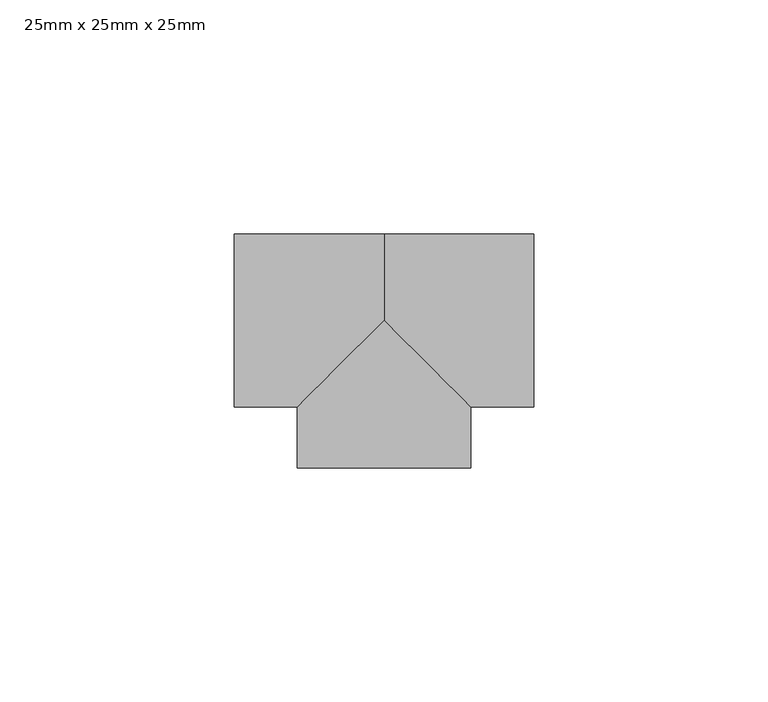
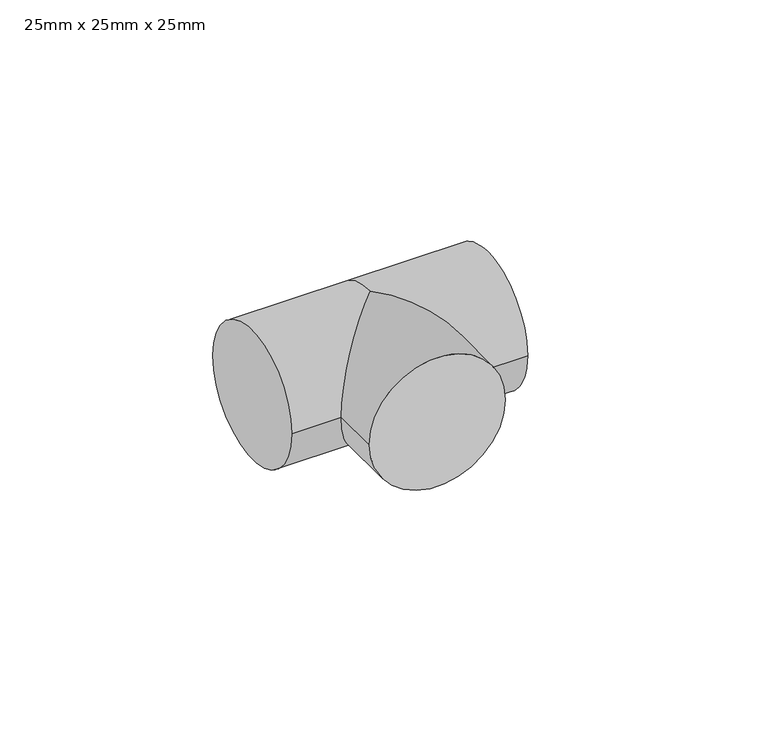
"""IFC4 building model written with IfcOpenShell, lengths in millimetres: pipe fitting geometry, PipeFitting_HTA_CPVC_Tees90° : 25mm x 25mm x 25mm."""

import ifcopenshell
import ifcopenshell.guid

model = None  # the IFC model being written
_history = None  # IfcOwnerHistory: only IFC2X3 demands one
_inside = {}  # id of a spatial element -> (the spatial element, [elements in it])
_under = {}  # id of a project, library or spatial element -> (it, [spatial elements below it])
_declared = {}  # id of a project -> (the project, [libraries it declares])
_typed = {}  # id of a type object -> (the type object, [elements of that type])
_made_of = {}  # id of a material, layer set ... -> (it, [elements and type objects made of it])


def new_model(schema):
    """Start an empty IFC model of exactly this schema.

    Asked for "IFC4X3", IfcOpenShell would pick the latest addendum, in which some entities
    have other attributes; the version numbers below select the first issue.
    IFC2X3 requires an IfcOwnerHistory on every rooted entity: one is made here for all.
    """
    global model, _history
    if schema == "IFC4X3":
        model = ifcopenshell.file(schema_version=(4, 3, 0, 0))
    else:
        model = ifcopenshell.file(schema=schema)
    _inside.clear()
    _under.clear()
    _declared.clear()
    _typed.clear()
    _made_of.clear()
    _history = None
    if model.schema == "IFC2X3":
        org = make("IfcOrganization", Name="unknown")
        user = make(
            "IfcPersonAndOrganization",
            ThePerson=make("IfcPerson", FamilyName="unknown"),
            TheOrganization=org,
        )
        app = make(
            "IfcApplication",
            ApplicationDeveloper=org,
            Version="unknown",
            ApplicationFullName="unknown",
            ApplicationIdentifier="unknown",
        )
        _history = make(
            "IfcOwnerHistory",
            OwningUser=user,
            OwningApplication=app,
            ChangeAction="ADDED",
            CreationDate=0,
        )
    return model


def make(cls, **values):
    """One entity of the class cls with the attributes given. An attribute that is None is left unset."""
    return model.create_entity(
        cls, **{name: value for name, value in values.items() if value is not None}
    )


def rooted(cls, **values):
    """An entity with a GlobalId (a new one), such as an element, a storey or a relation."""
    return make(cls, GlobalId=ifcopenshell.guid.new(), OwnerHistory=_history, **values)


def si_unit(unit_type, name, prefix=None):
    """IfcSIUnit, for example si_unit("LENGTHUNIT", "METRE", prefix="MILLI")."""
    return make("IfcSIUnit", UnitType=unit_type, Prefix=prefix, Name=name)


def assignment(units):
    """IfcUnitAssignment: the units of a project."""
    return None if units is None else make("IfcUnitAssignment", Units=units)


def point(xyz):
    """IfcCartesianPoint."""
    return None if xyz is None else make("IfcCartesianPoint", Coordinates=xyz)


def direction(xyz):
    """IfcDirection."""
    return None if xyz is None else make("IfcDirection", DirectionRatios=xyz)


def frame(location, z_axis=None, x_axis=None):
    """IfcAxis2Placement3D, a coordinate frame: its origin and axes. An axis left out is left unset."""
    return make(
        "IfcAxis2Placement3D",
        Location=point(location),
        Axis=direction(z_axis),
        RefDirection=direction(x_axis),
    )


def origin():
    """The frame at (0, 0, 0) with its axes left unset."""
    return frame((0.0, 0.0, 0.0))


def place(relative_to, where):
    """IfcLocalPlacement: puts the frame where relative to a parent placement (None: the world)."""
    return make(
        "IfcLocalPlacement", PlacementRelTo=relative_to, RelativePlacement=where
    )


def context(
    kind, dimensions, precision=None, world=None, true_north=None, identifier=None
):
    """IfcGeometricRepresentationContext, for example the 3D "Model" context."""
    return make(
        "IfcGeometricRepresentationContext",
        ContextIdentifier=identifier,
        ContextType=kind,
        CoordinateSpaceDimension=dimensions,
        Precision=precision,
        WorldCoordinateSystem=world,
        TrueNorth=true_north,
    )


def project(units=None, contexts=None):
    """IfcProject with its units and contexts."""
    return rooted(
        "IfcProject",
        Name="project",
        RepresentationContexts=contexts,
        UnitsInContext=assignment(units),
    )


def spatial(cls, under=None, at=None, **own):
    """A site, building, storey or space (cls), placed at a placement, below another one or the project."""
    s = rooted(cls, ObjectPlacement=at, **own)
    if under is not None:
        _under.setdefault(under.id(), (under, []))[1].append(s)
    return s


def circle_curve(where, radius):
    """IfcCircle in the frame where."""
    return make("IfcCircle", Position=where, Radius=radius)


def ellipse_curve(where, semi_axis1, semi_axis2):
    """IfcEllipse in the frame where."""
    return make(
        "IfcEllipse", Position=where, SemiAxis1=semi_axis1, SemiAxis2=semi_axis2
    )


def shape(context_of_items, identifier, shape_type, items):
    """IfcShapeRepresentation: the items that make up one representation, for example the "Body"."""
    return make(
        "IfcShapeRepresentation",
        ContextOfItems=context_of_items,
        RepresentationIdentifier=identifier,
        RepresentationType=shape_type,
        Items=items,
    )


def source(mapping_origin, context_of_items, identifier, shape_type, items):
    """IfcRepresentationMap: a shape defined once, which mapped items show again and again."""
    return make(
        "IfcRepresentationMap",
        MappingOrigin=mapping_origin,
        MappedRepresentation=shape(context_of_items, identifier, shape_type, items),
    )


def transform(
    local_origin,
    x_axis=None,
    y_axis=None,
    z_axis=None,
    scale=None,
    scale2=None,
    scale3=None,
    uniform=True,
):
    """IfcCartesianTransformationOperator3D, or its non-uniform kind. x_axis, y_axis, z_axis: its Axis1, 2, 3."""
    if uniform:
        return make(
            "IfcCartesianTransformationOperator3D",
            Axis1=direction(x_axis),
            Axis2=direction(y_axis),
            LocalOrigin=point(local_origin),
            Scale=scale,
            Axis3=direction(z_axis),
        )
    return make(
        "IfcCartesianTransformationOperator3DnonUniform",
        Axis1=direction(x_axis),
        Axis2=direction(y_axis),
        LocalOrigin=point(local_origin),
        Scale=scale,
        Axis3=direction(z_axis),
        Scale2=scale2,
        Scale3=scale3,
    )


def mapped(mapping_source, mapping_target):
    """IfcMappedItem: shows the shape of a source again, moved by a transform."""
    return make(
        "IfcMappedItem", MappingSource=mapping_source, MappingTarget=mapping_target
    )


def made_of(thing, what):
    """Note that an element or type object is made of a material, layer set ...; save() writes the relation."""
    if what is not None:
        _made_of.setdefault(what.id(), (what, []))[1].append(thing)
    return thing


def element(
    cls,
    number,
    at=None,
    inside=None,
    cuts=None,
    type_object=None,
    material=None,
    context=None,
    identifier="Body",
    shape_type=None,
    held_by="IfcProductDefinitionShape",
    body=None,
    shapes=None,
    **own,
):
    """One element of the class cls, such as IfcWall. Its Tag is "e" and its number.

    at: its placement. inside: the storey or other place that contains it. cuts: it is an
    opening in that element (IfcRelVoidsElement). A single representation is given by context,
    identifier, shape_type and body (its items); several are given by shapes. held_by: the class
    of the entity that holds the representations. save() writes the other relations.
    """
    e = rooted(cls, Tag="e%d" % number, ObjectPlacement=at, **own)
    if body is not None:
        shapes = [shape(context, identifier, shape_type, body)]
    if shapes is not None:
        e.Representation = make(held_by, Representations=shapes)
    if inside is not None:
        _inside.setdefault(inside.id(), (inside, []))[1].append(e)
    if cuts is not None:
        rooted(
            "IfcRelVoidsElement", RelatingBuildingElement=cuts, RelatedOpeningElement=e
        )
    if type_object is not None:
        _typed.setdefault(type_object.id(), (type_object, []))[1].append(e)
    return made_of(e, material)


def aggregate(whole, parts):
    """IfcRelAggregates: a whole, such as a stair, and the parts it consists of."""
    return rooted("IfcRelAggregates", RelatingObject=whole, RelatedObjects=parts)


def save(model, path):
    """Write the relations noted so far, then the file.

    IfcRelAggregates (storeys below a building ...), IfcRelContainedInSpatialStructure (elements
    in a storey), IfcRelDefinesByType, IfcRelAssociatesMaterial and IfcRelDeclares: one each for
    every whole, place, type object, material and project.
    """
    for whole, parts in _under.values():
        aggregate(whole, parts)
    for where, things in _inside.values():
        rooted(
            "IfcRelContainedInSpatialStructure",
            RelatedElements=things,
            RelatingStructure=where,
        )
    for kind, things in _typed.values():
        rooted("IfcRelDefinesByType", RelatedObjects=things, RelatingType=kind)
    for what, things in _made_of.values():
        rooted("IfcRelAssociatesMaterial", RelatedObjects=things, RelatingMaterial=what)
    for by, libraries in _declared.values():
        rooted("IfcRelDeclares", RelatingContext=by, RelatedDefinitions=libraries)
    model.write(path)


def plane_surface(at):
    """IfcPlane: the flat surface through the origin of the frame at, square to its z axis."""
    return make("IfcPlane", Position=at)


def cylinder_surface(at, radius):
    """IfcCylindricalSurface: all points at the distance radius from the z axis of the frame at."""
    return make("IfcCylindricalSurface", Position=at, Radius=radius)


def advanced_brep(points, edges, surfaces, faces):
    """IfcAdvancedBrep: a solid bounded by faces that lie on surfaces and meet in shared edges.

    An edge is (start, end): straight between two places in points (the first is 0);
    or (start, end, curve); or (start, end, curve, False) where it runs against its curve.
    A face is (place in surfaces, loops), or (place, loops, False) where it looks against
    its surface's normal. A loop lists edges by number (the first is 1), with a minus sign
    where the edge is run from its end to its start. The first loop is the outer one.
    """
    corners = [point(p) for p in points]
    vertices = [make("IfcVertexPoint", VertexGeometry=c) for c in corners]
    made = []
    for start, end, *more in edges:
        made.append(
            make(
                "IfcEdgeCurve",
                EdgeStart=vertices[start],
                EdgeEnd=vertices[end],
                EdgeGeometry=more[0] if more else make("IfcPolyline", Points=[corners[start], corners[end]]),
                SameSense=more[1] if len(more) > 1 else True,
            )
        )
    hull = []
    for where, loops, *sense in faces:
        bounds = []
        for j, loop in enumerate(loops):
            ring = [make("IfcOrientedEdge", EdgeElement=made[abs(k) - 1], Orientation=k > 0) for k in loop]
            bounds.append(
                make(
                    "IfcFaceOuterBound" if j == 0 else "IfcFaceBound",
                    Bound=make("IfcEdgeLoop", EdgeList=ring),
                    Orientation=True,
                )
            )
        hull.append(make("IfcAdvancedFace", Bounds=bounds, FaceSurface=surfaces[where], SameSense=sense[0] if sense else True))
    return make("IfcAdvancedBrep", Outer=make("IfcClosedShell", CfsFaces=hull))


def pipe_fitting_25mm_x_25mm_x_25mm_83432f33(model_context):
    return source(origin(), model_context, "Body", "AdvancedBrep", [
        advanced_brep(
        [(-18.5, -31.5, 0.0), (18.5, -31.5, 0.0), (18.5, -18.5, 0.0), (0.0, 0.0, 18.5), (-18.5, -18.5, 0.0), (0.0, 0.0, -18.5), (-32.0, -18.5, 0.0), (-32.0, 18.5, 0.0), (0.0, 18.5, 0.0), (32.0, -18.5, 0.0), (32.0, 18.5, 0.0)],
        [
            (0, 1, circle_curve(frame((0.0, -31.5, 0.0), z_axis=(0.0, -1.0, 0.0), x_axis=(1.0, 0.0, 0.0)), 18.5)),
            (1, 0, circle_curve(frame((0.0, -31.5, 0.0), z_axis=(0.0, -1.0, 0.0), x_axis=(1.0, 0.0, 0.0)), 18.5)),
            (1, 2),
            (2, 3, ellipse_curve(frame((0.0, 0.0, 0.0), z_axis=(-0.7071067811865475, -0.7071067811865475, 0.0), x_axis=(-0.7071067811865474, 0.7071067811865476, 0.0)), 26.1629509, 18.5)),
            (3, 4, ellipse_curve(frame((0.0, 0.0, 0.0), z_axis=(0.7071067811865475, -0.7071067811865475, 0.0), x_axis=(0.7071067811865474, 0.7071067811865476, 0.0)), 26.1629509, 18.5)),
            (4, 0),
            (4, 5, ellipse_curve(frame((0.0, 0.0, 0.0), z_axis=(0.7071067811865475, -0.7071067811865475, 0.0), x_axis=(0.7071067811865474, 0.7071067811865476, 0.0)), 26.1629509, 18.5)),
            (5, 2, ellipse_curve(frame((0.0, 0.0, 0.0), z_axis=(-0.7071067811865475, -0.7071067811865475, 0.0), x_axis=(-0.7071067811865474, 0.7071067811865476, 0.0)), 26.1629509, 18.5)),
            (6, 7, circle_curve(frame((-32.0, 0.0, 0.0), z_axis=(-1.0, 0.0, 0.0), x_axis=(0.0, 1.0, 0.0)), 18.5)),
            (7, 6, circle_curve(frame((-32.0, 0.0, 0.0), z_axis=(-1.0, 0.0, 0.0), x_axis=(0.0, 1.0, 0.0)), 18.5)),
            (6, 4),
            (3, 8, circle_curve(frame((0.0, 0.0, 0.0), z_axis=(-1.0, 0.0, 0.0), x_axis=(0.0, 1.0, 0.0)), 18.5)),
            (8, 7),
            (8, 5, circle_curve(frame((0.0, 0.0, 0.0), z_axis=(-1.0, 0.0, 0.0), x_axis=(0.0, 1.0, 0.0)), 18.5)),
            (9, 10, circle_curve(frame((32.0, 0.0, 0.0), z_axis=(1.0, 0.0, 0.0), x_axis=(0.0, 1.0, 0.0)), 18.5)),
            (10, 9, circle_curve(frame((32.0, 0.0, 0.0), z_axis=(1.0, 0.0, 0.0), x_axis=(0.0, 1.0, 0.0)), 18.5)),
            (10, 8),
            (2, 9),
        ],
        [
            plane_surface(frame((0.0, -31.5, 0.0), z_axis=(0.0, -1.0, 0.0), x_axis=(0.0, 0.0, 1.0))),
            cylinder_surface(frame((0.0, 0.0, 0.0), z_axis=(0.0, 1.0, 0.0), x_axis=(1.0, 0.0, 0.0)), 18.5),
            plane_surface(frame((-32.0, 0.0, 0.0), z_axis=(-1.0, 0.0, 0.0), x_axis=(0.0, 0.0, 1.0))),
            cylinder_surface(frame((-32.0, 0.0, 0.0), z_axis=(-1.0, 0.0, 0.0), x_axis=(0.0, 1.0, 0.0)), 18.5),
            plane_surface(frame((32.0, 0.0, 0.0), z_axis=(1.0, 0.0, 0.0), x_axis=(0.0, 0.0, 1.0))),
            cylinder_surface(frame((0.0, 0.0, 0.0), z_axis=(-1.0, 0.0, 0.0), x_axis=(0.0, 1.0, 0.0)), 18.5),
        ],
        [
            (0, [[1, 2]]),
            (1, [[-2, 3, 4, 5, 6]]),
            (1, [[-1, -6, 7, 8, -3]]),
            (2, [[9, 10]]),
            (3, [[-9, 11, -5, 12, 13]]),
            (3, [[-10, -13, 14, -7, -11]]),
            (4, [[15, 16]]),
            (5, [[-16, 17, -12, -4, 18]]),
            (5, [[-15, -18, -8, -14, -17]]),
        ],
    ),
    ])


if __name__ == "__main__":
    model = new_model("IFC4")
    model_context = context("Model", 3, world=origin())
    ifc_project = project(units=[si_unit("LENGTHUNIT", "METRE", prefix="MILLI")], contexts=[model_context])
    site = spatial("IfcSite", under=ifc_project)
    building = spatial("IfcBuilding", under=site)
    placement = place(None, origin())
    pipe_fitting_25mm_x_25mm_x_25mm_shape = pipe_fitting_25mm_x_25mm_x_25mm_83432f33(model_context)
    element("IfcPipeFitting", 1, ObjectType="PipeFitting_HTA_CPVC_Tees90° : 25mm x 25mm x 25mm", at=placement, inside=building, context=model_context, shape_type="MappedRepresentation", body=[
        mapped(pipe_fitting_25mm_x_25mm_x_25mm_shape, transform((0.0, 0.0, 0.0), x_axis=(1.0, 0.0, 0.0), y_axis=(0.0, 1.0, 0.0), z_axis=(0.0, 0.0, 1.0))),
    ])
    save(model, "model.ifc")
